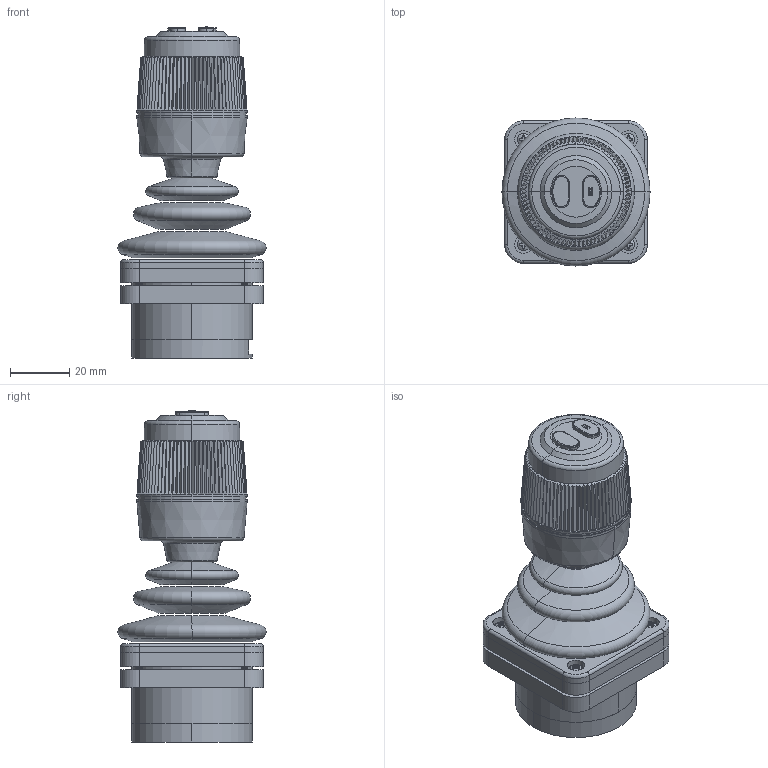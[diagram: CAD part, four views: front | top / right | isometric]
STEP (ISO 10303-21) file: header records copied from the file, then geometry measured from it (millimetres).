
FILE_DESCRIPTION(('FreeCAD Model'),'2;1');
FILE_NAME('Open CASCADE Shape Model','2022-11-30T08:49:11',('Author'),( ''),'Open CASCADE STEP processor 7.6','FreeCAD','Unknown');
FILE_SCHEMA(('AUTOMOTIVE_DESIGN { 1 0 10303 214 1 1 1 1 }'));
Length unit declared in the file: millimetre
Products named in the file (1): TRY100 5 5 1 D 8 1 1
Bounding box: 50.13 x 50.13 x 112.38 mm (x, y, z)
Surface area: 28318.8 mm2 (no closed solid volume)
Topology: 0 solids, 43 shells, 847 faces, 2517 edges, 1710 vertices
Faces by surface type: plane 380, cylinder 316, cone 93, torus 40, sphere 14, bspline 4
Entity records: 86262 total; most frequent: CARTESIAN_POINT 42962, DIRECTION 7259, ORIENTED_EDGE 4409, PCURVE 4409, DEFINITIONAL_REPRESENTATION 4409, LINE 4115, VECTOR 4115, EDGE_CURVE 2517
